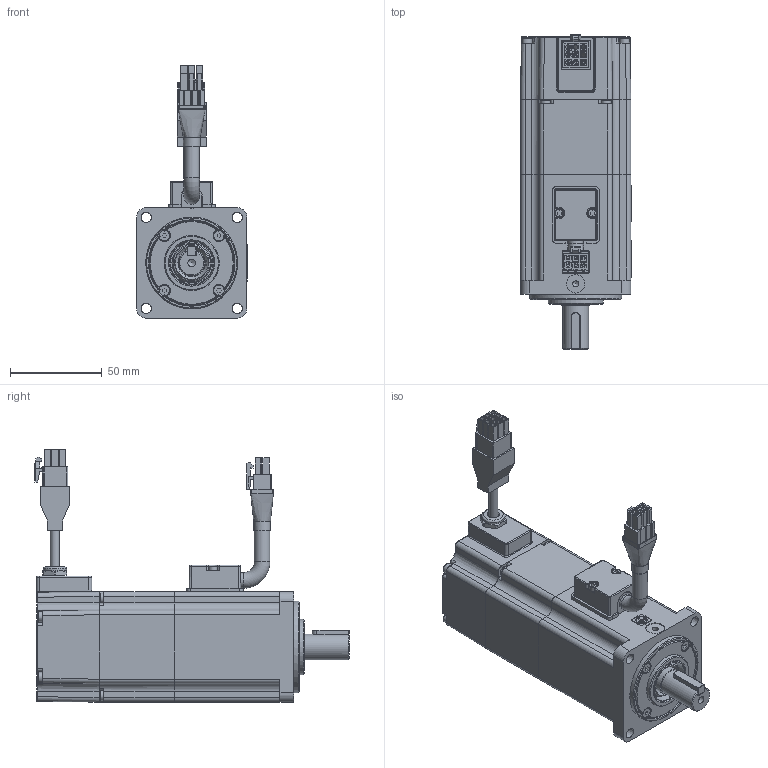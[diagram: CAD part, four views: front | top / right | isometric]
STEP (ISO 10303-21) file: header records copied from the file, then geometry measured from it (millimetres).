
FILE_DESCRIPTION(/* description */ ('AdapterTestApp'),/* implementation_level */ '2;1');
FILE_NAME(/* name */ 'TCE60 2A XX 3 A2 1 D0',/* time_stamp */ '2015-09-28T15:24:06+02:00',/* author */ ('AdapterTestApp'),/* organization */ ('Siemens PLM Software'),/* preprocessor_version */ 'ST-DEVELOPER v15.6',/* originating_system */ 'DEX',/* authorisation */ $);
FILE_SCHEMA (('AUTOMOTIVE_DESIGN {1 0 10303 214 3 1 1}'));
Products named in the file (36): TCE60 2A XX 3 A2 1 D0_vuoto; U5100003_vuoto; 003120002511; 005911000598; 003108015152_curva; 003303000376; 005453000452_D8,5; 001799000503; 003251022005; 005123000690; 007102000212; 001107000618; 003108020178_dritto; 005603001018; 003303000021; 005711000200; 003155000302; 003003050016; 005911003621; 005008000906; 003103001508; 005123000100; 005911000262; 005119001312; 005008000958; 005008000400; 005008000960; 005007000294; 005204000001; 005204000002; 005204000004; 005113000362; 005911000494; 005911003622
Assembly tree (49 placements, depth 4):
  TCE60 2A XX 3 A2 1 D0_vuoto
    U5100003_vuoto
      003120002511
      005911000598  x2
      003108015152_curva
        003108015152_curva
        003303000376
        005453000452_D8,5
      001799000503
    003251022005
    005123000690
    007102000212
      001107000618
      003108020178_dritto
        003108020178_dritto
        005603001018
        003303000021
        005711000200  x2
    003155000302
    003003050016
    005911003621  x4
    005008000906
    003103001508
    005123000100
    005911000262  x4
    005119001312
    005008000958
    005008000400
    005008000960
    005007000294
    005204000001
    005204000002
    005204000004
    005113000362
    005911000494  x4
    005911003622  x4
Bounding box: 60.3 x 170.9 x 137.2 mm (x, y, z)
Volume: 214389.7 mm3; surface area: 145226.9 mm2
Topology: 63 solids, 63 shells, 2381 faces, 5975 edges, 3827 vertices
Faces by surface type: plane 1380, cylinder 514, bspline 142, torus 137, cone 135, extrusion 37, sphere 36
Full cylindrical faces by diameter (mm): 2.013 x3, 2.459 x38, 2.5 x2, 2.6 x13, 2.7 x2, 3 x16, 3.242 x4, 3.5 x16, 4.134 x2, 4.7 x3, 5 x1, 5.2 x1, 5.3 x2, 5.5 x13, 6 x3, 6.5 x1, 7.2 x1, 8 x1, 8.1 x1, 8.5 x2, 8.51 x1, 9.11 x1, 9.98 x1, 10 x5, 10.3 x2, 10.647 x1, 12 x2, 12.7 x1, 14 x2, 14.98 x1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
Entity records: 75952 total; most frequent: CARTESIAN_POINT 23923, ORIENTED_EDGE 10138, DIRECTION 9963, EDGE_CURVE 5069, VERTEX_POINT 3453, AXIS2_PLACEMENT_3D 3359, VECTOR 3245, LINE 3208
